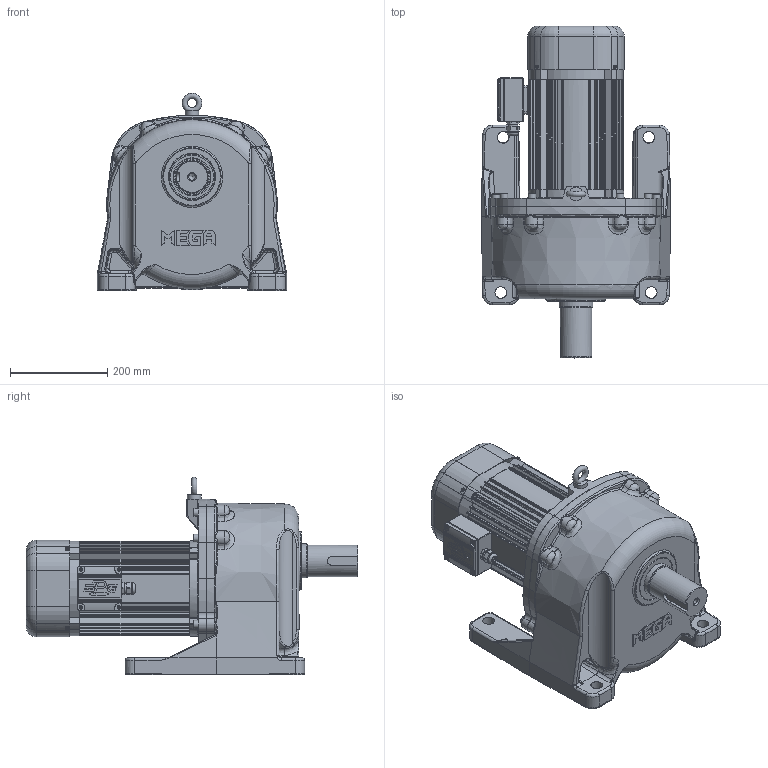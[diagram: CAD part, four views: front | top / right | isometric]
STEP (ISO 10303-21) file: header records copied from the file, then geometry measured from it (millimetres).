
FILE_DESCRIPTION(/* description */ (''),/* implementation_level */ '2;1');
FILE_NAME(/* name */ 'Z:\동력 3D 파일\PML235_2.2kW_Brake_3D.stp',/* time_stamp */ '2021-11-30T15:47:13+09:00',/* author */ ('jaebok'),/* organization */ (''),/* preprocessor_version */ 'ST-DEVELOPER v18.1',/* originating_system */ 'Autodesk Inventor 2022',/* authorisation */ '');
FILE_SCHEMA (('AUTOMOTIVE_DESIGN { 1 0 10303 214 3 1 1 }'));
Length unit declared in the file: millimetre
Products named in the file (1): 부품15
Bounding box: 390 x 684.1 x 407.5 mm (x, y, z)
Volume: 13127427.4 mm3; surface area: 2000991.5 mm2
Topology: 2 solids, 41 shells, 3090 faces, 7766 edges, 4696 vertices
Faces by surface type: plane 1048, cylinder 937, bspline 535, torus 279, cone 188, sphere 103
Full cylindrical faces by diameter (mm): 3.242 x4, 3.25 x1, 3.6 x4, 4 x21, 5 x13, 6 x5, 6.647 x12, 7 x8, 8 x5, 8.376 x1, 9 x4, 10 x9, 10.106 x1, 12 x9, 12.5 x1, 13 x8, 13.835 x1, 15 x1, 16 x8, 20 x2, 21 x1, 23.6 x1, 24 x5, 25 x1, 28 x1, 36 x1, 48 x1, 50 x1, 55 x1, 62 x1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
Entity records: 122548 total; most frequent: CARTESIAN_POINT 47816, ORIENTED_EDGE 15182, DIRECTION 15017, EDGE_CURVE 7591, AXIS2_PLACEMENT_3D 6012, VERTEX_POINT 4690, EDGE_LOOP 3331, CIRCLE 3259
